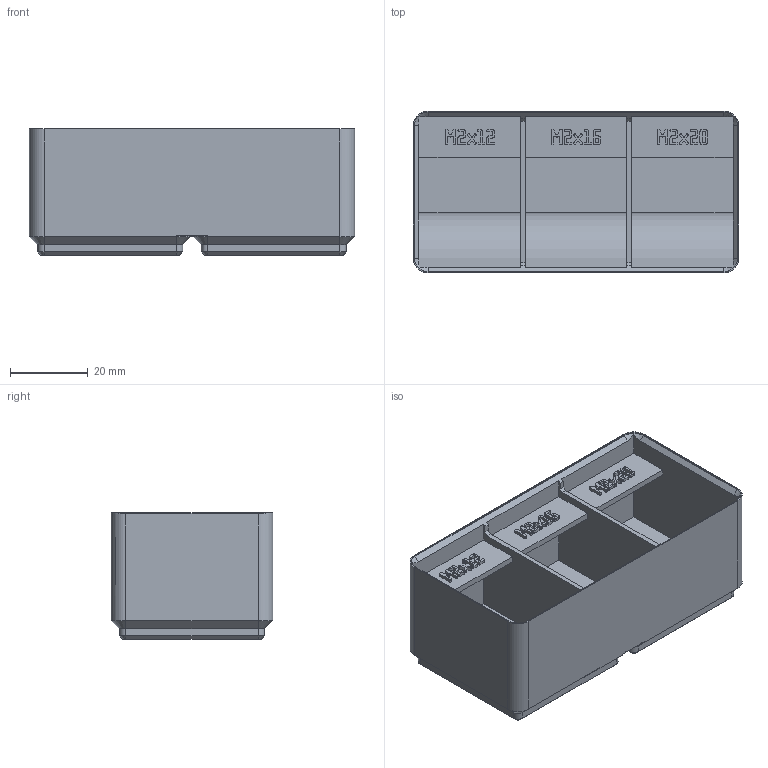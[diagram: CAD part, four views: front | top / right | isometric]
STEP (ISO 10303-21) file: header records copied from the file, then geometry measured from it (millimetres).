
FILE_DESCRIPTION(('Open CASCADE Model'),'2;1');
FILE_NAME('Open CASCADE Shape Model','2026-11-16T13:39:24',('Author'),( 'Open CASCADE'),'Open CASCADE STEP processor 8.0','build123d', 'Unknown');
FILE_SCHEMA(('AUTOMOTIVE_DESIGN { 1 0 10303 214 1 1 1 1 }'));
Products named in the file (1): SOLID
Bounding box: 83.5 x 41.5 x 32.4 mm (x, y, z)
Volume: 46156 mm3; surface area: 23545.3 mm2
Topology: 1 solids, 1 shells, 1753 faces, 5137 edges, 3406 vertices
Faces by surface type: plane 1710, cylinder 23, cone 20
Entity records: 120198 total; most frequent: CARTESIAN_POINT 24284, DIRECTION 15385, LINE 11722, VECTOR 11722, ORIENTED_EDGE 10274, PCURVE 10274, DEFINITIONAL_REPRESENTATION 10274, EDGE_CURVE 5137
